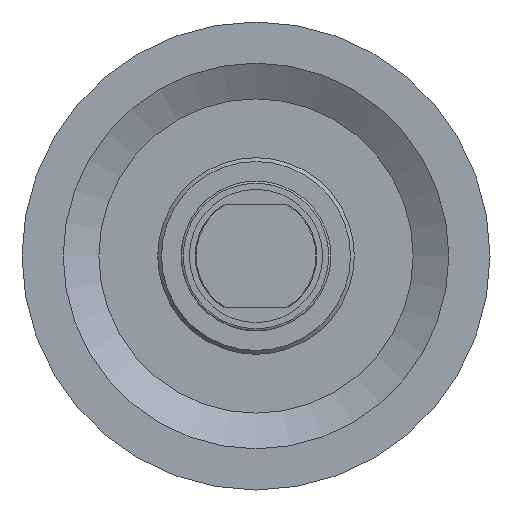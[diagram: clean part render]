
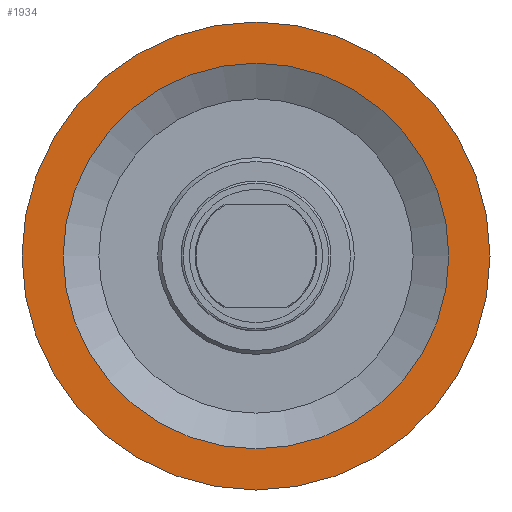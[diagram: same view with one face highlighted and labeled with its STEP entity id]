
A CAD part, left-side view. The second image highlights one B-rep face of the part: STEP entity #1934.
In plain terms, the highlighted planar face has unit normal (-1, 0, 0).
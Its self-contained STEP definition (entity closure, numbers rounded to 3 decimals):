
#351=FACE_BOUND('',#530,.T.);
#411=FACE_OUTER_BOUND('',#529,.T.);
#529=EDGE_LOOP('',(#1431,#1432));
#530=EDGE_LOOP('',(#1433,#1434));
#693=CIRCLE('',#2340,125.);
#694=CIRCLE('',#2341,125.);
#712=CIRCLE('',#2369,103.);
#713=CIRCLE('',#2370,103.);
#857=VERTEX_POINT('',#3342);
#858=VERTEX_POINT('',#3344);
#876=VERTEX_POINT('',#3397);
#877=VERTEX_POINT('',#3399);
#1077=EDGE_CURVE('',#857,#858,#693,.T.);
#1078=EDGE_CURVE('',#858,#857,#694,.T.);
#1103=EDGE_CURVE('',#877,#876,#712,.T.);
#1104=EDGE_CURVE('',#876,#877,#713,.T.);
#1431=ORIENTED_EDGE('',*,*,#1078,.F.);
#1432=ORIENTED_EDGE('',*,*,#1077,.F.);
#1433=ORIENTED_EDGE('',*,*,#1103,.T.);
#1434=ORIENTED_EDGE('',*,*,#1104,.T.);
#1882=PLANE('',#2371);
#1934=ADVANCED_FACE('',(#411,#351),#1882,.T.);
#2340=AXIS2_PLACEMENT_3D('',#3345,#2691,#2692);
#2341=AXIS2_PLACEMENT_3D('',#3346,#2693,#2694);
#2369=AXIS2_PLACEMENT_3D('',#3400,#2756,#2757);
#2370=AXIS2_PLACEMENT_3D('',#3401,#2758,#2759);
#2371=AXIS2_PLACEMENT_3D('',#3402,#2760,#2761);
#2691=DIRECTION('center_axis',(1.,0.,0.));
#2692=DIRECTION('ref_axis',(0.,0.,-1.));
#2693=DIRECTION('center_axis',(1.,0.,0.));
#2694=DIRECTION('ref_axis',(0.,0.,-1.));
#2756=DIRECTION('center_axis',(1.,0.,0.));
#2757=DIRECTION('ref_axis',(0.,0.,-1.));
#2758=DIRECTION('center_axis',(1.,0.,0.));
#2759=DIRECTION('ref_axis',(0.,0.,-1.));
#2760=DIRECTION('center_axis',(-1.,0.,0.));
#2761=DIRECTION('ref_axis',(0.,0.,1.));
#3342=CARTESIAN_POINT('',(-18.,-125.,0.));
#3344=CARTESIAN_POINT('',(-18.,125.,0.));
#3345=CARTESIAN_POINT('Origin',(-18.,0.,0.));
#3346=CARTESIAN_POINT('Origin',(-18.,0.,0.));
#3397=CARTESIAN_POINT('',(-18.,-103.,0.));
#3399=CARTESIAN_POINT('',(-18.,103.,0.));
#3400=CARTESIAN_POINT('Origin',(-18.,0.,0.));
#3401=CARTESIAN_POINT('Origin',(-18.,0.,0.));
#3402=CARTESIAN_POINT('Origin',(-18.,125.,0.));
